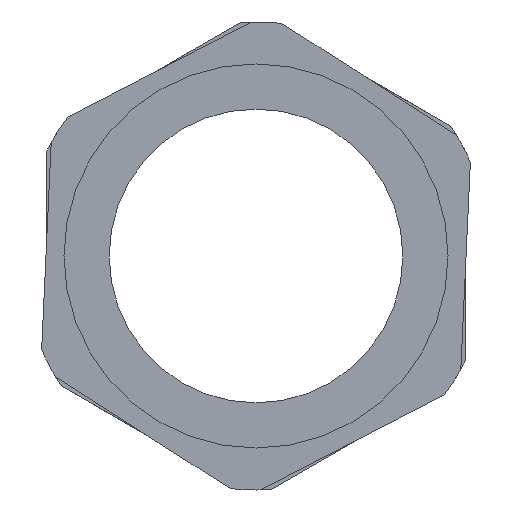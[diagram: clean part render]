
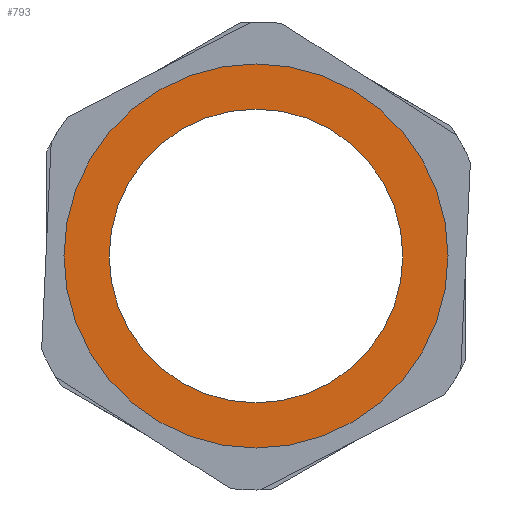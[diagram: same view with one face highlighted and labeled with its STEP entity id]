
A CAD part, front view. The second image highlights one B-rep face of the part: STEP entity #793.
In plain terms, the highlighted planar face has unit normal (0, -1, 0).
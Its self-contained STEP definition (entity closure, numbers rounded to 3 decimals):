
#51 = VERTEX_POINT ( 'NONE', #2327 ) ;
#93 = EDGE_CURVE ( 'NONE', #182, #1696, #2422, .T. ) ;
#125 = DIRECTION ( 'NONE',  ( 0., -1., 0. ) ) ;
#165 = DIRECTION ( 'NONE',  ( 0., 0., 1. ) ) ;
#182 = VERTEX_POINT ( 'NONE', #1609 ) ;
#185 = CARTESIAN_POINT ( 'NONE',  ( 0., 0., 22.75 ) ) ;
#449 = DIRECTION ( 'NONE',  ( 0., -1., 0. ) ) ;
#522 = CARTESIAN_POINT ( 'NONE',  ( 0., 0., 0. ) ) ;
#686 = DIRECTION ( 'NONE',  ( 0., -1., 0. ) ) ;
#701 = PLANE ( 'NONE',  #1417 ) ;
#709 = EDGE_CURVE ( 'NONE', #51, #2468, #1306, .T. ) ;
#777 = EDGE_CURVE ( 'NONE', #2468, #51, #1179, .T. ) ;
#793 = ADVANCED_FACE ( 'NONE', ( #2323, #2349 ), #701, .F. ) ;
#880 = DIRECTION ( 'NONE',  ( 0., 0., -1. ) ) ;
#1066 = CARTESIAN_POINT ( 'NONE',  ( 0., 0., 0. ) ) ;
#1106 = DIRECTION ( 'NONE',  ( 0., 1., 0. ) ) ;
#1166 = AXIS2_PLACEMENT_3D ( 'NONE', #1066, #686, #880 ) ;
#1179 = CIRCLE ( 'NONE', #1166, 22.75 ) ;
#1306 = CIRCLE ( 'NONE', #1881, 22.75 ) ;
#1333 = EDGE_LOOP ( 'NONE', ( #2209, #2092 ) ) ;
#1351 = AXIS2_PLACEMENT_3D ( 'NONE', #1948, #449, #1982 ) ;
#1417 = AXIS2_PLACEMENT_3D ( 'NONE', #2064, #1106, #165 ) ;
#1428 = DIRECTION ( 'NONE',  ( 0., 0., -1. ) ) ;
#1436 = CARTESIAN_POINT ( 'NONE',  ( 0., 0., 0. ) ) ;
#1515 = EDGE_CURVE ( 'NONE', #1696, #182, #1767, .T. ) ;
#1538 = EDGE_LOOP ( 'NONE', ( #2310, #1544 ) ) ;
#1544 = ORIENTED_EDGE ( 'NONE', *, *, #777, .F. ) ;
#1592 = CARTESIAN_POINT ( 'NONE',  ( 0., 0., 29.75 ) ) ;
#1609 = CARTESIAN_POINT ( 'NONE',  ( 0., 0., -29.75 ) ) ;
#1696 = VERTEX_POINT ( 'NONE', #1592 ) ;
#1767 = CIRCLE ( 'NONE', #2097, 29.75 ) ;
#1850 = DIRECTION ( 'NONE',  ( 0., -1., 0. ) ) ;
#1881 = AXIS2_PLACEMENT_3D ( 'NONE', #1436, #125, #1428 ) ;
#1948 = CARTESIAN_POINT ( 'NONE',  ( 0., 0., 0. ) ) ;
#1982 = DIRECTION ( 'NONE',  ( 0., 0., -1. ) ) ;
#2064 = CARTESIAN_POINT ( 'NONE',  ( 0., 0., 22.75 ) ) ;
#2092 = ORIENTED_EDGE ( 'NONE', *, *, #1515, .T. ) ;
#2097 = AXIS2_PLACEMENT_3D ( 'NONE', #522, #1850, #2221 ) ;
#2209 = ORIENTED_EDGE ( 'NONE', *, *, #93, .T. ) ;
#2221 = DIRECTION ( 'NONE',  ( 0., 0., -1. ) ) ;
#2310 = ORIENTED_EDGE ( 'NONE', *, *, #709, .F. ) ;
#2323 = FACE_BOUND ( 'NONE', #1538, .T. ) ;
#2327 = CARTESIAN_POINT ( 'NONE',  ( 0., 0., -22.75 ) ) ;
#2349 = FACE_OUTER_BOUND ( 'NONE', #1333, .T. ) ;
#2422 = CIRCLE ( 'NONE', #1351, 29.75 ) ;
#2468 = VERTEX_POINT ( 'NONE', #185 ) ;
